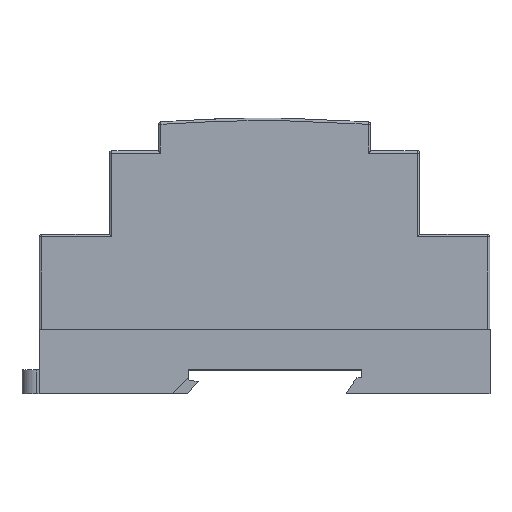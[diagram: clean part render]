
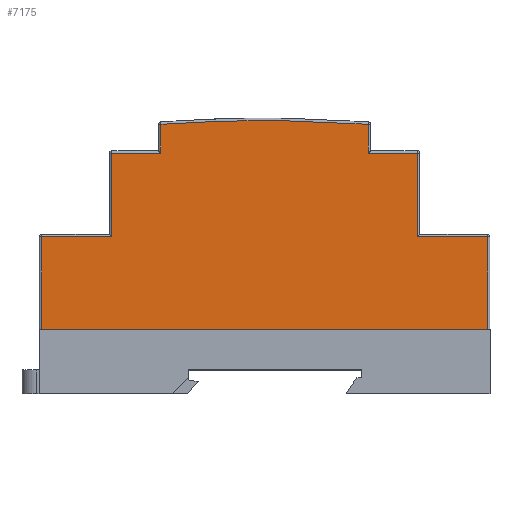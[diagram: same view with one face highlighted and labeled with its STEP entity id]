
A CAD part, top view. The second image highlights one B-rep face of the part: STEP entity #7175.
In plain terms, the highlighted planar face has unit normal (0, 0, 1).
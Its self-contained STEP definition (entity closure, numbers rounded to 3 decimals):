
#2113=DIRECTION('',(0.,1.,0.));
#2114=VECTOR('',#2113,5.836);
#2115=CARTESIAN_POINT('',(20.9,35.5,0.));
#2116=LINE('',#2115,#2114);
#2117=DIRECTION('',(-1.,0.,0.));
#2118=VECTOR('',#2117,9.9);
#2119=CARTESIAN_POINT('',(30.8,35.5,0.));
#2120=LINE('',#2119,#2118);
#2121=DIRECTION('',(0.,1.,0.));
#2122=VECTOR('',#2121,16.9);
#2123=CARTESIAN_POINT('',(30.8,18.6,0.));
#2124=LINE('',#2123,#2122);
#2125=DIRECTION('',(-1.,0.,0.));
#2126=VECTOR('',#2125,14.2);
#2127=CARTESIAN_POINT('',(45.,18.6,0.));
#2128=LINE('',#2127,#2126);
#2129=DIRECTION('',(0.,1.,0.));
#2130=VECTOR('',#2129,18.6);
#2131=CARTESIAN_POINT('',(45.,0.,0.));
#2132=LINE('',#2131,#2130);
#2133=DIRECTION('',(1.,0.,0.));
#2134=VECTOR('',#2133,90.);
#2135=CARTESIAN_POINT('',(-45.,0.,0.));
#2136=LINE('',#2135,#2134);
#2137=DIRECTION('',(0.,-1.,0.));
#2138=VECTOR('',#2137,18.6);
#2139=CARTESIAN_POINT('',(-45.,18.6,0.));
#2140=LINE('',#2139,#2138);
#2141=DIRECTION('',(-1.,0.,0.));
#2142=VECTOR('',#2141,14.2);
#2143=CARTESIAN_POINT('',(-30.8,18.6,0.));
#2144=LINE('',#2143,#2142);
#2145=DIRECTION('',(0.,-1.,0.));
#2146=VECTOR('',#2145,16.9);
#2147=CARTESIAN_POINT('',(-30.8,35.5,0.));
#2148=LINE('',#2147,#2146);
#2149=DIRECTION('',(-1.,0.,0.));
#2150=VECTOR('',#2149,9.9);
#2151=CARTESIAN_POINT('',(-20.9,35.5,0.));
#2152=LINE('',#2151,#2150);
#2153=DIRECTION('',(0.,-1.,0.));
#2154=VECTOR('',#2153,5.836);
#2155=CARTESIAN_POINT('',(-20.9,41.336,
0.));
#2156=LINE('',#2155,#2154);
#2157=CARTESIAN_POINT('',(20.9,41.336,0.));
#2158=CARTESIAN_POINT('',(17.687,41.571,0.));
#2159=CARTESIAN_POINT('',(11.108,41.944,
0.));
#2160=CARTESIAN_POINT('',(0.708,42.165,
0.));
#2161=CARTESIAN_POINT('',(-10.028,41.992,
0.));
#2162=CARTESIAN_POINT('',(-17.256,41.602,
0.));
#2163=CARTESIAN_POINT('',(-20.9,41.336,
0.));
#6972=CARTESIAN_POINT('',(45.,18.6,0.));
#6973=CARTESIAN_POINT('',(30.8,18.6,0.));
#6974=VERTEX_POINT('',#6972);
#6975=VERTEX_POINT('',#6973);
#6978=CARTESIAN_POINT('',(30.8,35.5,0.));
#6979=VERTEX_POINT('',#6978);
#6988=CARTESIAN_POINT('',(20.9,35.5,0.));
#6989=VERTEX_POINT('',#6988);
#6994=CARTESIAN_POINT('',(-20.9,35.5,0.));
#6995=CARTESIAN_POINT('',(-30.8,35.5,0.));
#6996=VERTEX_POINT('',#6994);
#6997=VERTEX_POINT('',#6995);
#7006=CARTESIAN_POINT('',(-30.8,18.6,0.));
#7007=VERTEX_POINT('',#7006);
#7010=CARTESIAN_POINT('',(-45.,18.6,0.));
#7011=VERTEX_POINT('',#7010);
#7012=CARTESIAN_POINT('',(-45.,0.,0.));
#7014=VERTEX_POINT('',#7012);
#7053=CARTESIAN_POINT('',(45.,0.,0.));
#7055=VERTEX_POINT('',#7053);
#7091=CARTESIAN_POINT('',(-20.9,41.336,0.));
#7093=VERTEX_POINT('',#7091);
#7101=CARTESIAN_POINT('',(20.9,41.336,0.));
#7103=VERTEX_POINT('',#7101);
#7144=CARTESIAN_POINT('',(0.,0.,0.));
#7145=DIRECTION('',(0.,0.,1.));
#7146=DIRECTION('',(1.,0.,0.));
#7147=AXIS2_PLACEMENT_3D('',#7144,#7145,#7146);
#7148=PLANE('',#7147);
#7150=ORIENTED_EDGE('',*,*,#7149,.F.);
#7152=ORIENTED_EDGE('',*,*,#7151,.F.);
#7154=ORIENTED_EDGE('',*,*,#7153,.F.);
#7156=ORIENTED_EDGE('',*,*,#7155,.F.);
#7158=ORIENTED_EDGE('',*,*,#7157,.F.);
#7160=ORIENTED_EDGE('',*,*,#7159,.F.);
#7162=ORIENTED_EDGE('',*,*,#7161,.F.);
#7164=ORIENTED_EDGE('',*,*,#7163,.F.);
#7166=ORIENTED_EDGE('',*,*,#7165,.F.);
#7168=ORIENTED_EDGE('',*,*,#7167,.F.);
#7170=ORIENTED_EDGE('',*,*,#7169,.F.);
#7172=ORIENTED_EDGE('',*,*,#7171,.F.);
#7173=EDGE_LOOP('',(#7150,#7152,#7154,#7156,#7158,#7160,#7162,#7164,#7166,#7168,
#7170,#7172));
#7174=FACE_OUTER_BOUND('',#7173,.F.);
#7175=ADVANCED_FACE('',(#7174),#7148,.T.);
#2164=B_SPLINE_CURVE_WITH_KNOTS('',3,(#2157,#2158,#2159,#2160,#2161,#2162,
#2163),.UNSPECIFIED.,.F.,.F.,(4,1,1,1,4),(0.,0.25,0.5,0.75,1.),
.UNSPECIFIED.);
#7149=EDGE_CURVE('',#6989,#7103,#2116,.T.);
#7151=EDGE_CURVE('',#6979,#6989,#2120,.T.);
#7153=EDGE_CURVE('',#6975,#6979,#2124,.T.);
#7155=EDGE_CURVE('',#6974,#6975,#2128,.T.);
#7157=EDGE_CURVE('',#7055,#6974,#2132,.T.);
#7159=EDGE_CURVE('',#7014,#7055,#2136,.T.);
#7161=EDGE_CURVE('',#7011,#7014,#2140,.T.);
#7163=EDGE_CURVE('',#7007,#7011,#2144,.T.);
#7165=EDGE_CURVE('',#6997,#7007,#2148,.T.);
#7167=EDGE_CURVE('',#6996,#6997,#2152,.T.);
#7169=EDGE_CURVE('',#7093,#6996,#2156,.T.);
#7171=EDGE_CURVE('',#7103,#7093,#2164,.T.);
